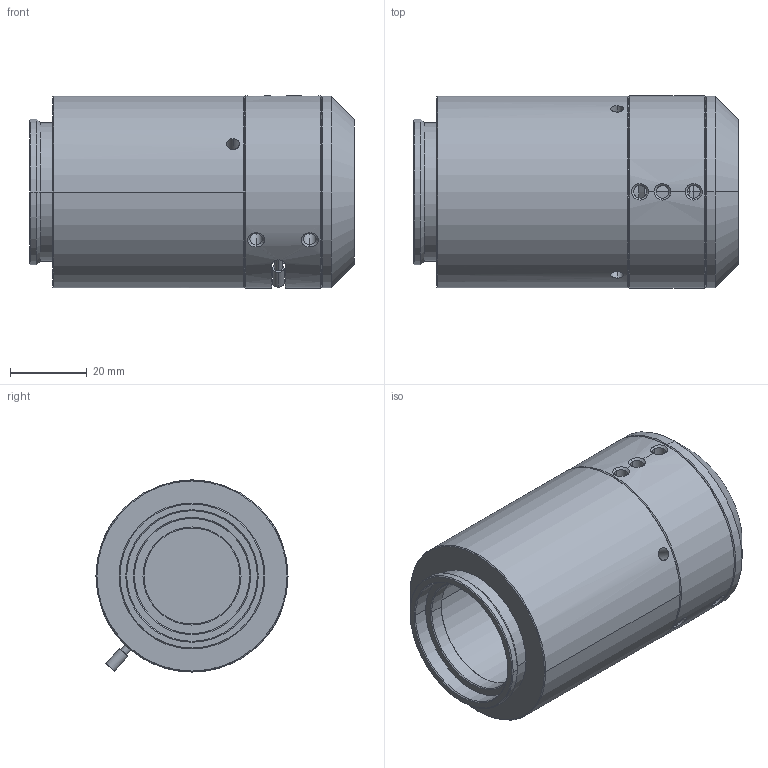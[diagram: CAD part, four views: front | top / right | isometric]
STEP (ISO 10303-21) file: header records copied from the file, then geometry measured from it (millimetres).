
FILE_DESCRIPTION (( 'STEP AP214' ), '1' );
FILE_NAME ('TXCOND-30-K (CATALOG MODEL).STEP', '2026-02-12T19:33:28', ( '' ), ( '' ), 'SwSTEP 2.0', 'SolidWorks 2025', '' );
FILE_SCHEMA (( 'AUTOMOTIVE_DESIGN' ));
Length unit declared in the file: inch
Products named in the file (1): TXCOND-30-K (CATALOG MODEL)
Bounding box: 84.63 x 50.01 x 50.01 mm (x, y, z)
Volume: 96021.7 mm3; surface area: 40502 mm2
Topology: 9 solids, 9 shells, 254 faces, 597 edges, 374 vertices
Faces by surface type: cylinder 112, plane 74, cone 60, bspline 8
Entity records: 8981 total; most frequent: CARTESIAN_POINT 2666, DIRECTION 1335, ORIENTED_EDGE 1194, EDGE_CURVE 597, AXIS2_PLACEMENT_3D 567, VERTEX_POINT 374, CIRCLE 320, EDGE_LOOP 305
